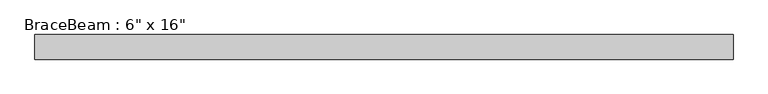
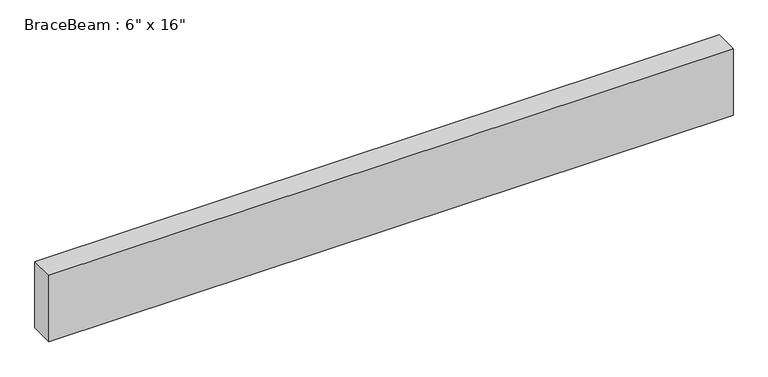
"""IFC4 building model written with IfcOpenShell, lengths in millimetres: beam geometry."""

from ifc_helpers import new_model, si_unit, frame, origin, place, context, project, spatial, polyline, outline, extrude, source, transform, mapped, element, save


def beam_f858cb3c(model_context):
    return source(origin(), model_context, "Body", "SweptSolid", [
        extrude(outline(polyline([(-1981.2, -69.85), (-1981.2, 69.85), (1981.2, 69.85), (1981.2, -69.85), (-1981.2, -69.85)])), frame((0.0, 0.0, -203.2), z_axis=(0.0, 0.0, 1.0), x_axis=(1.0, 0.0, 0.0)), (0.0, 0.0, 1.0), 406.4),
    ])


if __name__ == "__main__":
    model = new_model("IFC4")
    model_context = context("Model", 3, world=origin())
    ifc_project = project(units=[si_unit("LENGTHUNIT", "METRE", prefix="MILLI")], contexts=[model_context])
    site = spatial("IfcSite", under=ifc_project)
    building = spatial("IfcBuilding", under=site)
    placement = place(None, origin())
    beam_shape = beam_f858cb3c(model_context)
    element("IfcBeam", 1, ObjectType="BraceBeam : 6\" x 16\"", at=placement, inside=building, context=model_context, shape_type="MappedRepresentation", body=[
        mapped(beam_shape, transform((0.0, 0.0, 0.0), x_axis=(1.0, 0.0, 0.0), y_axis=(0.0, 1.0, 0.0), z_axis=(0.0, 0.0, 1.0))),
    ])
    save(model, "model.ifc")
